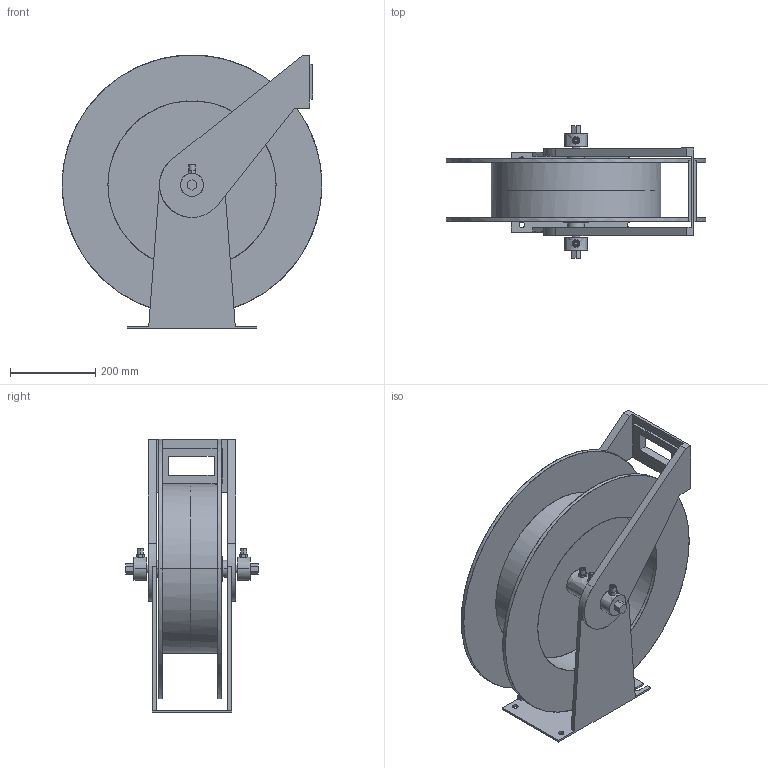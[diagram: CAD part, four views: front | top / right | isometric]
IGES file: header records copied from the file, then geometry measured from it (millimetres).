
Start section: Comment
Global section: file name: TW80000 OLPT SW.igs; native system:  By UGS Corp.; preprocessor: XPlus GENERIC/IGES 3.0; author: Author; organization: Title; date: 20120802.092007; units: millimetre
Bounding box: 609.6 x 310.54 x 642.45 mm (x, y, z)
Surface area: 1859908.7 mm2 (no closed solid volume)
Topology: 0 solids, 0 shells, 164 faces, 800 edges, 800 vertices
Faces by surface type: bspline 164
